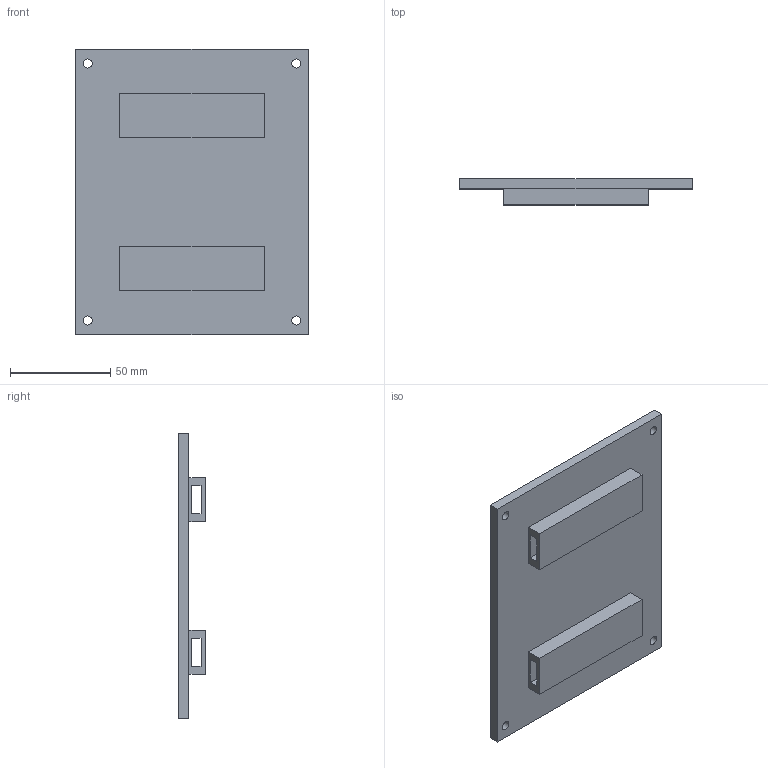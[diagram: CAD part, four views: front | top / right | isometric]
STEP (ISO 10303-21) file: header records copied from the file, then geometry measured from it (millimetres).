
FILE_DESCRIPTION(('Open CASCADE Model'),'2;1');
FILE_NAME('Open CASCADE Shape Model','2026-10-18T06:41:05',('Author'),( 'Open CASCADE'),'Open CASCADE STEP processor 7.9','Open CASCADE 7.9' ,'Unknown');
FILE_SCHEMA(('AUTOMOTIVE_DESIGN { 1 0 10303 214 1 1 1 1 }'));
Length unit declared in the file: millimetre
Products named in the file (1): Open CASCADE STEP translator 7.9 10
Bounding box: 116 x 13 x 142 mm (x, y, z)
Volume: 97709.1 mm3; surface area: 43833.1 mm2
Topology: 1 solids, 1 shells, 28 faces, 72 edges, 48 vertices
Faces by surface type: plane 24, cylinder 4
Full cylindrical faces by diameter (mm): 4.5 x4
Entity records: 1814 total; most frequent: CARTESIAN_POINT 293, DIRECTION 282, LINE 200, VECTOR 200, ORIENTED_EDGE 144, PCURVE 144, DEFINITIONAL_REPRESENTATION 144, EDGE_CURVE 72
